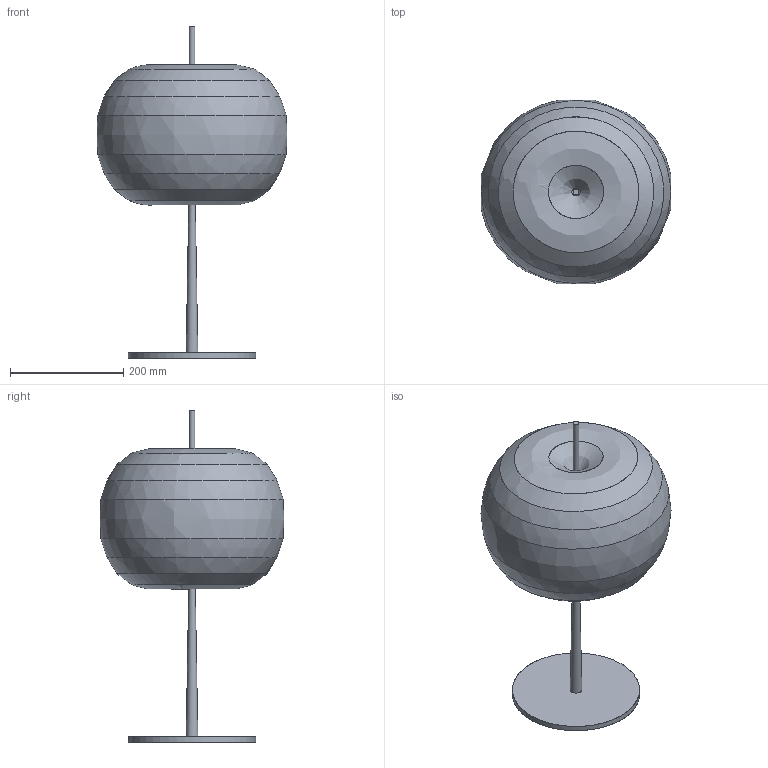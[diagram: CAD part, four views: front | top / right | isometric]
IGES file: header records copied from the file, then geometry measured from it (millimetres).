
Global section: file name: C:\Users\gianella\Desktop\3d per sito\KUSHI XL TABLE.igs; native system: Rhinoceros ( Apr  4 2016 ); preprocessor: Trout Lake IGES 012 Apr  4 2016; date: 190426.095209; units: millimetre
Bounding box: 335.33 x 324.28 x 586.48 mm (x, y, z)
Surface area: 450018.8 mm2 (no closed solid volume)
Topology: 0 solids, 0 shells, 29 faces, 177 edges, 167 vertices
Faces by surface type: bspline 29
